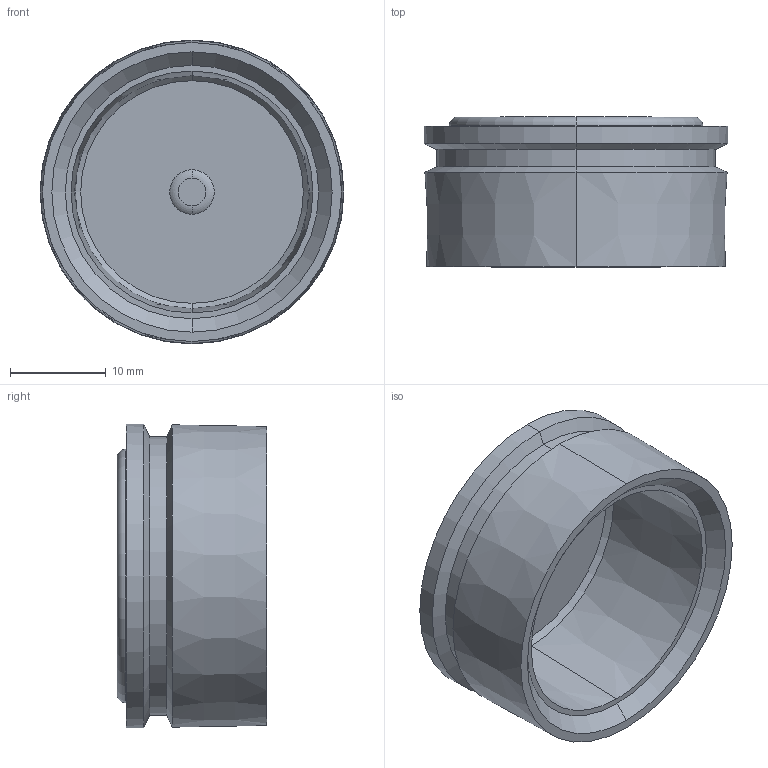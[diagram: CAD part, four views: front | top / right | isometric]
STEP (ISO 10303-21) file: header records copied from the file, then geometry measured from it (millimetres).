
FILE_DESCRIPTION (( 'STEP AP203' ), '1' );
FILE_NAME ('plc-pg-29-00.00.004 Óïëîòíèòåëü (PG29) #sealant (PG29)#.STEP', '2024-07-23T11:53:17', ( '' ), ( '' ), 'SwSTEP 2.0', 'SolidWorks 2021', '' );
FILE_SCHEMA (( 'CONFIG_CONTROL_DESIGN' ));
Length unit declared in the file: millimetre
Products named in the file (1): plc-pg-29-00.00.004 Óïëîòíèòåëü (PG29) #sealant (PG29)#
Bounding box: 31.68 x 15.6 x 31.68 mm (x, y, z)
Volume: 4358 mm3; surface area: 4204.7 mm2
Topology: 1 solids, 1 shells, 31 faces, 60 edges, 36 vertices
Faces by surface type: cone 14, plane 7, torus 6, cylinder 4
Entity records: 877 total; most frequent: DIRECTION 166, CARTESIAN_POINT 128, ORIENTED_EDGE 120, AXIS2_PLACEMENT_3D 74, EDGE_CURVE 60, CIRCLE 42, VERTEX_POINT 36, EDGE_LOOP 36
